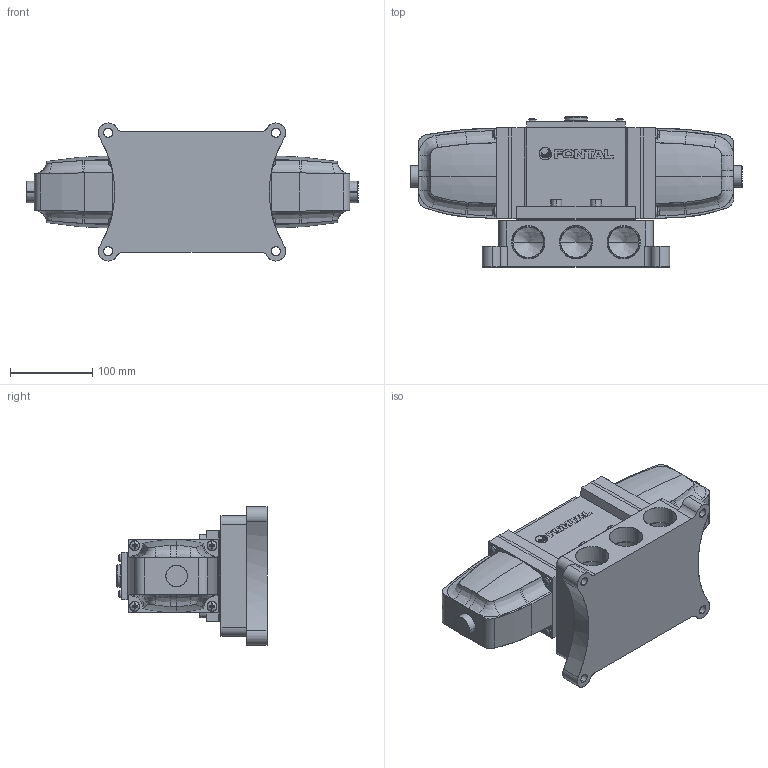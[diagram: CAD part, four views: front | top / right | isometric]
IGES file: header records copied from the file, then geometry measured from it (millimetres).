
Start section: SolidWorks IGES file using analytic representation for surfaces
Global section: file name: C:\Users\Toshiba\Desktop\AD2425-10-##.IGS; native system: SolidWorks 2014; preprocessor: SolidWorks 2014; author: Toshiba; date: 160122.153809; units: millimetre
Bounding box: 403.8 x 182.5 x 168 mm (x, y, z)
Surface area: 430719.6 mm2 (no closed solid volume)
Topology: 0 solids, 0 shells, 882 faces, 9880 edges, 9838 vertices
Faces by surface type: bspline 561, revolution 321
